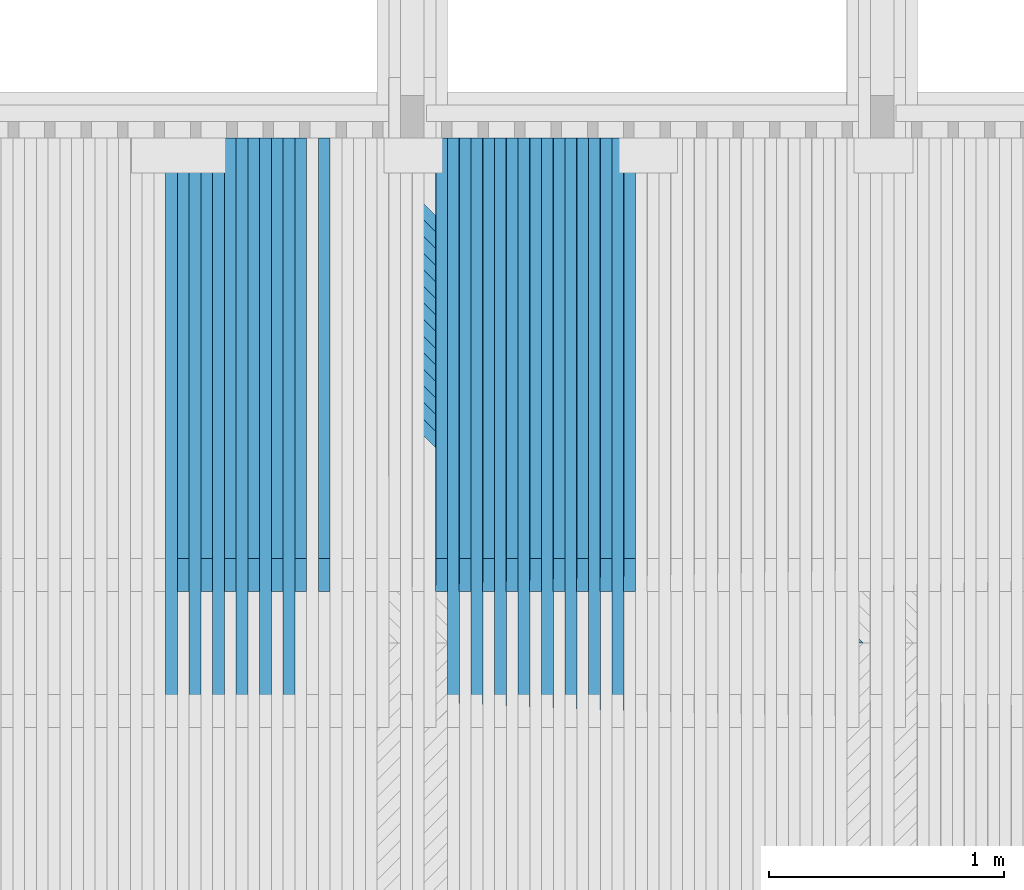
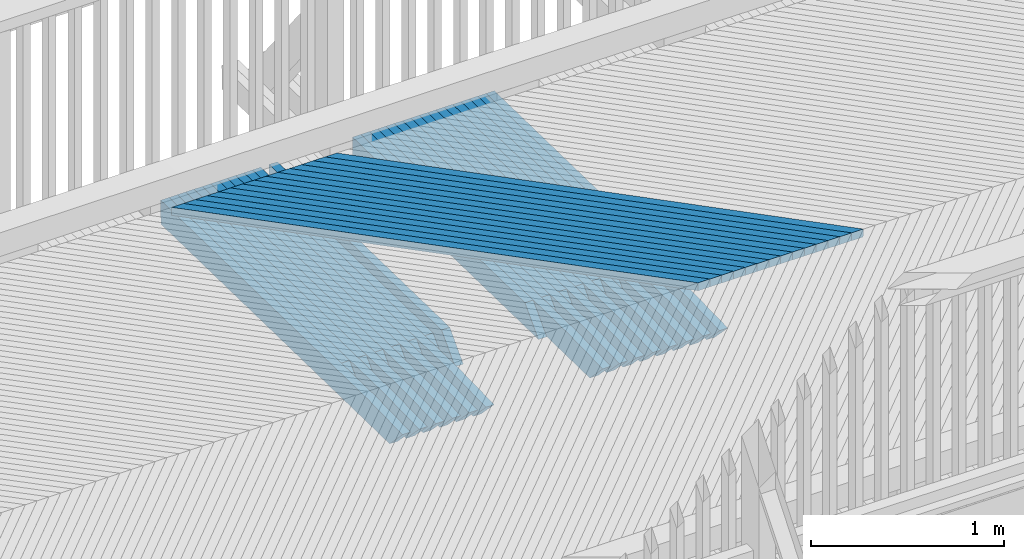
# One storey, part 35 of 53: 44 beams.
"""IFC2X3 building model written with IfcOpenShell, lengths in millimetres."""

from ifc_helpers import new_model, si_unit, frame, origin_with_axes, place, context, subcontext, project, spatial, faceted_brep, material, type_object, element, save


model = new_model("IFC2X3")

# Units and contexts
model_context = context("Model", 3, precision=1e-05, world=origin_with_axes())
body_context = subcontext(model_context, "Body", "Model", "MODEL_VIEW")
ifc_project = project(units=[si_unit("LENGTHUNIT", "METRE", prefix="MILLI"), si_unit("AREAUNIT", "SQUARE_METRE"), si_unit("VOLUMEUNIT", "CUBIC_METRE"), si_unit("MASSUNIT", "GRAM", prefix="KILO"), si_unit("TIMEUNIT", "SECOND"), si_unit("PLANEANGLEUNIT", "RADIAN"), si_unit("SOLIDANGLEUNIT", "STERADIAN"), si_unit("THERMODYNAMICTEMPERATUREUNIT", "DEGREE_CELSIUS"), si_unit("LUMINOUSINTENSITYUNIT", "LUMEN")], contexts=[model_context])

# Site, building, storey
site_placement = place(None, origin_with_axes())
site = spatial("IfcSite", under=ifc_project, at=site_placement, Name="Undefined", CompositionType="ELEMENT")
building_placement = place(site_placement, origin_with_axes())
building = spatial("IfcBuilding", under=site, at=building_placement, Name="Undefined", CompositionType="ELEMENT")
storey_placement = place(building_placement, origin_with_axes())
storey = spatial("IfcBuildingStorey", under=building, at=storey_placement, Name="Undefined", CompositionType="ELEMENT", Elevation=0.0)

# Beams
ifc_material = material(Name="TIMBER/Timber_Undefined")
beam_type_1 = type_object("IfcBeamType", Name="50*50", PredefinedType="NOTDEFINED")
for number, where, z_axis, x_axis, name in (
    (1, (11884.1639920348, 42365.4998996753, 3223.59371167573), (0.707016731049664, 0.706981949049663, -0.0174317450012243), (-0.707181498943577, 0.706948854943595, -0.0108463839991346), "BEAM"),
    (2, (11813.441203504, 42365.4998996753, 3224.04579456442), (0.707018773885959, 0.706981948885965, -0.0173486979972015), (-0.707180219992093, 0.706948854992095, -0.0109294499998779), "BEAM"),
    (3, (11742.718362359, 42365.4998996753, 3224.48957030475), (0.707020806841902, 0.706981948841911, -0.0172656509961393), (-0.707178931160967, 0.706948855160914, -0.0110125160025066), "BEAM"),
    (4, (11671.9954695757, 42365.4998996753, 3224.92503889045), (0.707022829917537, 0.706981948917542, -0.017182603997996), (-0.707177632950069, 0.706948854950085, -0.0110955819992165), "BEAM"),
    (5, (11601.2725261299, 42365.4998996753, 3225.35220031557), (0.707024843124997, 0.706981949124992, -0.0170995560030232), (-0.707176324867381, 0.706948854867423, -0.0111786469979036), "BEAM"),
    (6, (11530.5495329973, 42365.4998996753, 3225.7710545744), (0.707026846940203, 0.706981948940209, -0.0170165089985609), (-0.707175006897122, 0.706948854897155, -0.0112617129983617), "BEAM"),
    (7, (11459.8264911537, 42365.4998996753, 3226.18160166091), (0.7070288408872, 0.706981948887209, -0.0169334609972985), (-0.707173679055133, 0.706948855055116, -0.0113447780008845), "BEAM"),
    (8, (11389.1034015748, 42365.4998996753, 3226.58384156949), (0.70703082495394, 0.706981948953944, -0.0168504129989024), (-0.70717234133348, 0.706948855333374, -0.011427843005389), "BEAM"),
    (9, (11318.3802652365, 42365.4998996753, 3226.97777429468), (0.707032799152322, 0.706981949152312, -0.0167673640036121), (-0.707170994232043, 0.70694885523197, -0.0115109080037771), "BEAM"),
    (10, (11247.6570831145, 42365.4998996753, 3227.363399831), (0.707034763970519, 0.706981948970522, -0.0166843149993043), (-0.707169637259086, 0.706948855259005, -0.0115939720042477), "BEAM"),
    (11, (11176.9338561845, 42365.4998996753, 3227.7407181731), (0.707036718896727, 0.706981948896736, -0.0166012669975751), (-0.707168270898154, 0.706948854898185, -0.0116770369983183), "BEAM"),
    (12, (11106.2105854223, 42365.4998996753, 3228.10972931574), (0.707038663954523, 0.706981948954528, -0.0165182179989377), (-0.70716689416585, 0.706948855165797, -0.011760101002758), "BEAM"),
    (13, (11035.4872718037, 42365.4998996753, 3228.47043325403), (0.707040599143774, 0.706981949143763, -0.016435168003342), (-0.707165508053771, 0.706948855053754, -0.0118431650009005), "BEAM"),
    (14, (10964.7639163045, 42365.4998996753, 3228.82282998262), (0.707042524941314, 0.706981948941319, -0.0163521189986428), (-0.707164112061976, 0.706948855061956, -0.0119262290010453), "BEAM"),
):
    element("IfcBeam", number, at=place(storey_placement, frame(where, z_axis=z_axis, x_axis=x_axis)), inside=storey, type_object=beam_type_1, material=ifc_material, Name=name, ObjectType="50*50", context=body_context, shape_type="Brep", body=[
        faceted_brep([(23.5869248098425, 25.0000000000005, -24.9999999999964), (-26.415415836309, 25.0000000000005, 25.0000000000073), (2802.92643296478, 25.0, 25.0), (2852.92877373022, 25.0, -25.0000000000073), (-25.001170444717, -24.9999999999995, 25.0000000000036), (2804.3406783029, -25.0, 24.9999999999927), (25.0011701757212, -24.9999999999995, -24.9999999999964), (2854.34301907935, -25.0, -25.0)], [[[0, 1, 2, 3]], [[1, 4, 5, 2]], [[4, 6, 7, 5]], [[6, 0, 3, 7]], [[5, 7, 3, 2]], [[6, 4, 1, 0]]]),
    ])
beam_type_2 = type_object("IfcBeamType", Name="150*50", PredefinedType="NOTDEFINED")
beam_1_placement = place(storey_placement, frame((10875.1411031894, 44513.4953923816, 3086.28180497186), z_axis=(0.00469590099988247, 0.0199960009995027, 0.99978903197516), x_axis=(9.39180000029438e-05, -0.999800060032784, 0.0199957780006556)))
element("IfcBeam", 15, at=beam_1_placement, inside=storey, type_object=beam_type_2, material=ifc_material, Name="BEAM", ObjectType="150*50", context=body_context, shape_type="Brep", body=[
    faceted_brep([(1.28420651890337e-08, -24.9999999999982, -74.9999999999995), (1.28420651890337e-08, 25.0000000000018, -75.0), (2375.00494422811, 25.0000000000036, -75.0), (2375.0049444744, -24.9999999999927, -74.9999999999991), (-1.28347892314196e-08, -24.9999999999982, 75.0), (-1.28347892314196e-08, 25.0, 75.0), (2150.42515052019, 25.0000000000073, 75.0), (2510.59248715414, 25.0000000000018, 60.5875433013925), (2510.5924871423, -24.9999999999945, 60.5875430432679), (2150.42514405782, -24.9999999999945, 75.0)], [[[0, 1, 2, 3]], [[0, 4, 5, 1]], [[2, 1, 5, 6, 7]], [[3, 2, 7, 8]], [[4, 0, 3, 8, 9]], [[5, 4, 9, 6]], [[8, 7, 6, 9]]]),
])
beam_2_placement = place(storey_placement, frame((10925.1605446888, 44513.4953923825, 3086.03855962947), z_axis=(0.00486202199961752, 0.0199960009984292, 0.999788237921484), x_axis=(9.72400000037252e-05, -0.999800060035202, 0.019995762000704)))
element("IfcBeam", 16, at=beam_2_placement, inside=storey, type_object=beam_type_2, material=ifc_material, Name="BEAM", ObjectType="150*50", context=body_context, shape_type="Brep", body=[
    faceted_brep([(1.28420651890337e-08, -24.9999999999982, -74.9999999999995), (-1.28347892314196e-08, -24.9999999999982, 75.0), (-1.28347892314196e-08, 25.0, 75.0), (1.28420651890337e-08, 25.0000000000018, -75.0), (1789.96936408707, 24.9999999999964, 75.0000000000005), (1928.42646328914, 24.9999999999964, -74.9999999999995), (1928.42646353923, -25.0000000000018, -75.0), (1789.96936433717, -25.0000000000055, 74.9999999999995)], [[[0, 1, 2, 3]], [[3, 2, 4, 5]], [[0, 3, 5, 6]], [[1, 0, 6, 7]], [[2, 1, 7, 4]], [[5, 4, 7, 6]]]),
])
beam_3_placement = place(storey_placement, frame((10775.1221713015, 44513.4953923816, 3086.75121569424), z_axis=(0.00452978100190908, 0.01999600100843, 0.999789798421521), x_axis=(9.05950000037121e-05, -0.999800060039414, 0.0199957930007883)))
element("IfcBeam", 17, at=beam_3_placement, inside=storey, type_object=beam_type_2, material=ifc_material, Name="BEAM", ObjectType="150*50", context=body_context, shape_type="Brep", body=[
    faceted_brep([(1.28420651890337e-08, -24.9999999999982, -74.9999999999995), (1.28420651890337e-08, 25.0000000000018, -75.0), (2375.00494422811, 25.0000000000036, -75.0), (2375.0049444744, -24.9999999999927, -74.9999999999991), (-1.28347892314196e-08, -24.9999999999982, 75.0), (-1.28347892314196e-08, 25.0, 75.0), (2150.42515052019, 25.0000000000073, 75.0), (2510.59248715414, 25.0000000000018, 60.5875433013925), (2510.5924871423, -24.9999999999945, 60.5875430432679), (2150.42514405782, -24.9999999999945, 75.0)], [[[0, 1, 2, 3]], [[0, 4, 5, 1]], [[2, 1, 5, 6, 7]], [[3, 2, 7, 8]], [[4, 0, 3, 8, 9]], [[5, 4, 9, 6]], [[8, 7, 6, 9]]]),
])
beam_4_placement = place(storey_placement, frame((10825.141652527, 44513.4953923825, 3086.51628135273), z_axis=(0.00469590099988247, 0.0199960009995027, 0.99978903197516), x_axis=(9.39180000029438e-05, -0.999800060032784, 0.0199957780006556)))
element("IfcBeam", 18, at=beam_4_placement, inside=storey, type_object=beam_type_2, material=ifc_material, Name="BEAM", ObjectType="150*50", context=body_context, shape_type="Brep", body=[
    faceted_brep([(1.28420651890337e-08, -24.9999999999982, -74.9999999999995), (-1.28347892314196e-08, -24.9999999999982, 75.0), (-1.28347892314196e-08, 25.0, 75.0), (1.28420651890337e-08, 25.0000000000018, -75.0), (1789.96936408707, 24.9999999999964, 75.0000000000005), (1928.42646328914, 24.9999999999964, -74.9999999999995), (1928.42646353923, -25.0000000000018, -75.0), (1789.96936433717, -25.0000000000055, 74.9999999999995)], [[[0, 1, 2, 3]], [[3, 2, 4, 5]], [[0, 3, 5, 6]], [[1, 0, 6, 7]], [[2, 1, 7, 4]], [[5, 4, 7, 6]]]),
])
beam_5_placement = place(storey_placement, frame((10675.1031627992, 44513.4953923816, 3087.20400773), z_axis=(0.00436366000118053, 0.0199960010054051, 0.999790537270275), x_axis=(8.72730000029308e-05, -0.999800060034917, 0.0199958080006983)))
element("IfcBeam", 19, at=beam_5_placement, inside=storey, type_object=beam_type_2, material=ifc_material, Name="BEAM", ObjectType="150*50", context=body_context, shape_type="Brep", body=[
    faceted_brep([(1.28420651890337e-08, -24.9999999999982, -74.9999999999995), (1.28420651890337e-08, 25.0000000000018, -75.0), (2375.00494422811, 25.0000000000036, -75.0), (2375.0049444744, -24.9999999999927, -74.9999999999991), (-1.28347892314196e-08, -24.9999999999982, 75.0), (-1.28347892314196e-08, 25.0, 75.0), (2150.42515052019, 25.0000000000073, 75.0), (2510.59248715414, 25.0000000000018, 60.5875433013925), (2510.5924871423, -24.9999999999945, 60.5875430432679), (2150.42514405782, -24.9999999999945, 75.0)], [[[0, 1, 2, 3]], [[0, 4, 5, 1]], [[2, 1, 5, 6, 7]], [[3, 2, 7, 8]], [[4, 0, 3, 8, 9]], [[5, 4, 9, 6]], [[8, 7, 6, 9]]]),
])
beam_6_placement = place(storey_placement, frame((10725.1226823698, 44513.4953923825, 3086.9773843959), z_axis=(0.00452978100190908, 0.01999600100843, 0.999789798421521), x_axis=(9.05950000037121e-05, -0.999800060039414, 0.0199957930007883)))
element("IfcBeam", 20, at=beam_6_placement, inside=storey, type_object=beam_type_2, material=ifc_material, Name="BEAM", ObjectType="150*50", context=body_context, shape_type="Brep", body=[
    faceted_brep([(1.28420651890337e-08, -24.9999999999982, -74.9999999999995), (-1.28347892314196e-08, -24.9999999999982, 75.0), (-1.28347892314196e-08, 25.0, 75.0), (1.28420651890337e-08, 25.0000000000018, -75.0), (1789.96936408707, 24.9999999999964, 75.0000000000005), (1928.42646328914, 24.9999999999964, -74.9999999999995), (1928.42646353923, -25.0000000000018, -75.0), (1789.96936433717, -25.0000000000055, 74.9999999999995)], [[[0, 1, 2, 3]], [[3, 2, 4, 5]], [[0, 3, 5, 6]], [[1, 0, 6, 7]], [[2, 1, 7, 4]], [[5, 4, 7, 6]]]),
])
beam_7_placement = place(storey_placement, frame((10575.0840804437, 44513.4953923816, 3087.64018106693), z_axis=(0.00419753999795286, 0.0199960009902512, 0.99979124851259), x_axis=(8.39510000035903e-05, -0.999800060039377, 0.0199958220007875)))
element("IfcBeam", 21, at=beam_7_placement, inside=storey, type_object=beam_type_2, material=ifc_material, Name="BEAM", ObjectType="150*50", context=body_context, shape_type="Brep", body=[
    faceted_brep([(1.28420651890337e-08, -24.9999999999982, -74.9999999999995), (1.28420651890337e-08, 25.0000000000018, -75.0), (2375.00494422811, 25.0000000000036, -75.0), (2375.0049444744, -24.9999999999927, -74.9999999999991), (-1.28347892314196e-08, -24.9999999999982, 75.0), (-1.28347892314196e-08, 25.0, 75.0), (2150.42515052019, 25.0000000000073, 75.0), (2510.59248715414, 25.0000000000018, 60.5875433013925), (2510.5924871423, -24.9999999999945, 60.5875430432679), (2150.42514405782, -24.9999999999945, 75.0)], [[[0, 1, 2, 3]], [[0, 4, 5, 1]], [[2, 1, 5, 6, 7]], [[3, 2, 7, 8]], [[4, 0, 3, 8, 9]], [[5, 4, 9, 6]], [[8, 7, 6, 9]]]),
])
beam_8_placement = place(storey_placement, frame((10625.1036369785, 44513.4953923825, 3087.4218687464), z_axis=(0.00436366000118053, 0.0199960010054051, 0.999790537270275), x_axis=(8.72730000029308e-05, -0.999800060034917, 0.0199958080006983)))
element("IfcBeam", 22, at=beam_8_placement, inside=storey, type_object=beam_type_2, material=ifc_material, Name="BEAM", ObjectType="150*50", context=body_context, shape_type="Brep", body=[
    faceted_brep([(1.28420651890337e-08, -24.9999999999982, -74.9999999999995), (-1.28347892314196e-08, -24.9999999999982, 75.0), (-1.28347892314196e-08, 25.0, 75.0), (1.28420651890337e-08, 25.0000000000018, -75.0), (1789.96936408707, 24.9999999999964, 75.0000000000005), (1928.42646328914, 24.9999999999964, -74.9999999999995), (1928.42646353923, -25.0000000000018, -75.0), (1789.96936433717, -25.0000000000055, 74.9999999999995)], [[[0, 1, 2, 3]], [[3, 2, 4, 5]], [[0, 3, 5, 6]], [[1, 0, 6, 7]], [[2, 1, 7, 4]], [[5, 4, 7, 6]]]),
])
beam_9_placement = place(storey_placement, frame((10475.0649269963, 44513.4953923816, 3088.05973569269), z_axis=(0.00403141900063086, 0.0199960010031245, 0.999791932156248), x_axis=(8.06280000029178e-05, -0.999800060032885, 0.0199958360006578)))
element("IfcBeam", 23, at=beam_9_placement, inside=storey, type_object=beam_type_2, material=ifc_material, Name="BEAM", ObjectType="150*50", context=body_context, shape_type="Brep", body=[
    faceted_brep([(1.28420651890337e-08, -24.9999999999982, -74.9999999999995), (1.28420651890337e-08, 25.0000000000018, -75.0), (2375.00494422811, 25.0000000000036, -75.0), (2375.0049444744, -24.9999999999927, -74.9999999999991), (-1.28347892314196e-08, -24.9999999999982, 75.0), (-1.28347892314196e-08, 25.0, 75.0), (2150.42515052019, 25.0000000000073, 75.0), (2510.59248715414, 25.0000000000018, 60.5875433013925), (2510.5924871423, -24.9999999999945, 60.5875430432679), (2150.42514405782, -24.9999999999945, 75.0)], [[[0, 1, 2, 3]], [[0, 4, 5, 1]], [[2, 1, 5, 6, 7]], [[3, 2, 7, 8]], [[4, 0, 3, 8, 9]], [[5, 4, 9, 6]], [[8, 7, 6, 9]]]),
])
beam_10_placement = place(storey_placement, frame((10525.0845191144, 44513.4953923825, 3087.84973439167), z_axis=(0.00419753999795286, 0.0199960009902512, 0.99979124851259), x_axis=(8.39510000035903e-05, -0.999800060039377, 0.0199958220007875)))
element("IfcBeam", 24, at=beam_10_placement, inside=storey, type_object=beam_type_2, material=ifc_material, Name="BEAM", ObjectType="150*50", context=body_context, shape_type="Brep", body=[
    faceted_brep([(1.28420651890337e-08, -24.9999999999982, -74.9999999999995), (-1.28347892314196e-08, -24.9999999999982, 75.0), (-1.28347892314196e-08, 25.0, 75.0), (1.28420651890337e-08, 25.0000000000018, -75.0), (1789.96936408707, 24.9999999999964, 75.0000000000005), (1928.42646328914, 24.9999999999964, -74.9999999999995), (1928.42646353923, -25.0000000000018, -75.0), (1789.96936433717, -25.0000000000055, 74.9999999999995)], [[[0, 1, 2, 3]], [[3, 2, 4, 5]], [[0, 3, 5, 6]], [[1, 0, 6, 7]], [[2, 1, 7, 4]], [[5, 4, 7, 6]]]),
])
beam_11_placement = place(storey_placement, frame((10375.0457052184, 44513.4953923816, 3088.46267159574), z_axis=(0.00386529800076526, 0.0199960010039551, 0.99979258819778), x_axis=(7.73060000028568e-05, -0.999800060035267, 0.0199958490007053)))
element("IfcBeam", 25, at=beam_11_placement, inside=storey, type_object=beam_type_2, material=ifc_material, Name="BEAM", ObjectType="150*50", context=body_context, shape_type="Brep", body=[
    faceted_brep([(1.28420651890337e-08, -24.9999999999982, -74.9999999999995), (1.28420651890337e-08, 25.0000000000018, -75.0), (2375.00494422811, 25.0000000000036, -75.0), (2375.0049444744, -24.9999999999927, -74.9999999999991), (-1.28347892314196e-08, -24.9999999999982, 75.0), (-1.28347892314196e-08, 25.0, 75.0), (2150.42515052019, 25.0000000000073, 75.0), (2510.59248715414, 25.0000000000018, 60.5875433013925), (2510.5924871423, -24.9999999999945, 60.5875430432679), (2150.42514405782, -24.9999999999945, 75.0)], [[[0, 1, 2, 3]], [[0, 4, 5, 1]], [[2, 1, 5, 6, 7]], [[3, 2, 7, 8]], [[4, 0, 3, 8, 9]], [[5, 4, 9, 6]], [[8, 7, 6, 9]]]),
])
beam_12_placement = place(storey_placement, frame((10425.0653315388, 44513.4953923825, 3088.26098132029), z_axis=(0.00403141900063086, 0.0199960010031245, 0.999791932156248), x_axis=(8.06280000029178e-05, -0.999800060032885, 0.0199958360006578)))
element("IfcBeam", 26, at=beam_12_placement, inside=storey, type_object=beam_type_2, material=ifc_material, Name="BEAM", ObjectType="150*50", context=body_context, shape_type="Brep", body=[
    faceted_brep([(1.28420651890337e-08, -24.9999999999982, -74.9999999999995), (-1.28347892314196e-08, -24.9999999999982, 75.0), (-1.28347892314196e-08, 25.0, 75.0), (1.28420651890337e-08, 25.0000000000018, -75.0), (1789.96936408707, 24.9999999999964, 75.0000000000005), (1928.42646328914, 24.9999999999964, -74.9999999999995), (1928.42646353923, -25.0000000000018, -75.0), (1789.96936433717, -25.0000000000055, 74.9999999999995)], [[[0, 1, 2, 3]], [[3, 2, 4, 5]], [[0, 3, 5, 6]], [[1, 0, 6, 7]], [[2, 1, 7, 4]], [[5, 4, 7, 6]]]),
])
beam_13_placement = place(storey_placement, frame((10275.0264178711, 44513.4953923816, 3088.84898876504), z_axis=(0.00369917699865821, 0.0199960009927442, 0.999793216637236), x_axis=(7.39830000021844e-05, -0.999800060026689, 0.0199958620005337)))
element("IfcBeam", 27, at=beam_13_placement, inside=storey, type_object=beam_type_2, material=ifc_material, Name="BEAM", ObjectType="150*50", context=body_context, shape_type="Brep", body=[
    faceted_brep([(1.28420651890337e-08, -24.9999999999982, -74.9999999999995), (1.28420651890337e-08, 25.0000000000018, -75.0), (2375.00494422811, 25.0000000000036, -75.0), (2375.0049444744, -24.9999999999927, -74.9999999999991), (-1.28347892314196e-08, -24.9999999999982, 75.0), (-1.28347892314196e-08, 25.0, 75.0), (2150.42515052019, 25.0000000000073, 75.0), (2510.59248715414, 25.0000000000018, 60.5875433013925), (2510.5924871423, -24.9999999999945, 60.5875430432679), (2150.42514405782, -24.9999999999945, 75.0)], [[[0, 1, 2, 3]], [[0, 4, 5, 1]], [[2, 1, 5, 6, 7]], [[3, 2, 7, 8]], [[4, 0, 3, 8, 9]], [[5, 4, 9, 6]], [[8, 7, 6, 9]]]),
])
beam_14_placement = place(storey_placement, frame((10325.046077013, 44513.4953923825, 3088.65560952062), z_axis=(0.00386529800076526, 0.0199960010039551, 0.99979258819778), x_axis=(7.73060000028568e-05, -0.999800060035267, 0.0199958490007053)))
element("IfcBeam", 28, at=beam_14_placement, inside=storey, type_object=beam_type_2, material=ifc_material, Name="BEAM", ObjectType="150*50", context=body_context, shape_type="Brep", body=[
    faceted_brep([(1.28420651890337e-08, -24.9999999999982, -74.9999999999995), (-1.28347892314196e-08, -24.9999999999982, 75.0), (-1.28347892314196e-08, 25.0, 75.0), (1.28420651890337e-08, 25.0000000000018, -75.0), (1789.96936408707, 24.9999999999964, 75.0000000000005), (1928.42646328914, 24.9999999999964, -74.9999999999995), (1928.42646353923, -25.0000000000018, -75.0), (1789.96936433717, -25.0000000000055, 74.9999999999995)], [[[0, 1, 2, 3]], [[3, 2, 4, 5]], [[0, 3, 5, 6]], [[1, 0, 6, 7]], [[2, 1, 7, 4]], [[5, 4, 7, 6]]]),
])
beam_15_placement = place(storey_placement, frame((10175.0070677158, 44513.4953923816, 3089.21868718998), z_axis=(0.00353218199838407, 0.0199960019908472, 0.999793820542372), x_axis=(7.06610000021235e-05, -0.999800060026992, 0.0199958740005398)))
element("IfcBeam", 29, at=beam_15_placement, inside=storey, type_object=beam_type_2, material=ifc_material, Name="BEAM", ObjectType="150*50", context=body_context, shape_type="Brep", body=[
    faceted_brep([(1.28420651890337e-08, -24.9999999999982, -74.9999999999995), (1.28420651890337e-08, 25.0000000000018, -75.0), (2375.00494422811, 25.0000000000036, -75.0), (2375.0049444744, -24.9999999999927, -74.9999999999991), (-1.28347892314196e-08, -24.9999999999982, 75.0), (-1.28347892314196e-08, 25.0, 75.0), (2150.42515052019, 25.0000000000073, 75.0), (2510.59248715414, 25.0000000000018, 60.5875433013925), (2510.5924871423, -24.9999999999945, 60.5875430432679), (2150.42514405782, -24.9999999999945, 75.0)], [[[0, 1, 2, 3]], [[0, 4, 5, 1]], [[2, 1, 5, 6, 7]], [[3, 2, 7, 8]], [[4, 0, 3, 8, 9]], [[5, 4, 9, 6]], [[8, 7, 6, 9]]]),
])
for number, where, z_axis, x_axis, name in (
    (30, (10225.0267582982, 44513.4953923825, 3089.03361898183), (0.00369917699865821, 0.0199960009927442, 0.999793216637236), (7.39830000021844e-05, -0.999800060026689, 0.0199958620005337), "BEAM"),
    (31, (10125.0073781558, 44513.4953923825, 3089.39500969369), (0.00353218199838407, 0.0199960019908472, 0.999793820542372), (7.06610000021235e-05, -0.999800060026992, 0.0199958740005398), "BEAM"),
    (32, (9625.5096525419, 44513.4953923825, 3090.9530804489), (0.00270244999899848, 0.019996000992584, 0.999796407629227), (5.40480000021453e-05, -0.999800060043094, 0.0199959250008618), "BEAM"),
):
    element("IfcBeam", number, at=place(storey_placement, frame(where, z_axis=z_axis, x_axis=x_axis)), inside=storey, type_object=beam_type_2, material=ifc_material, Name=name, ObjectType="150*50", context=body_context, shape_type="Brep", body=[
        faceted_brep([(1.28420651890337e-08, -24.9999999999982, -74.9999999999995), (-1.28347892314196e-08, -24.9999999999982, 75.0), (-1.28347892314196e-08, 25.0, 75.0), (1.28420651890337e-08, 25.0000000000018, -75.0), (1789.96936408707, 24.9999999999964, 75.0000000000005), (1928.42646328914, 24.9999999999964, -74.9999999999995), (1928.42646353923, -25.0000000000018, -75.0), (1789.96936433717, -25.0000000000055, 74.9999999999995)], [[[0, 1, 2, 3]], [[3, 2, 4, 5]], [[0, 3, 5, 6]], [[1, 0, 6, 7]], [[2, 1, 7, 4]], [[5, 4, 7, 6]]]),
    ])
beam_16_placement = place(storey_placement, frame((9475.470089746, 44513.4953923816, 3091.34174898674), z_axis=(0.00237020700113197, 0.0199960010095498, 0.999797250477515), x_axis=(4.74040000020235e-05, -0.999800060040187, 0.0199959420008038)))
element("IfcBeam", 33, at=beam_16_placement, inside=storey, type_object=beam_type_2, material=ifc_material, Name="BEAM", ObjectType="150*50", context=body_context, shape_type="Brep", body=[
    faceted_brep([(1.28420651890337e-08, -24.9999999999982, -74.9999999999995), (1.28420651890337e-08, 25.0000000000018, -75.0), (2375.00494422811, 25.0000000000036, -75.0), (2375.0049444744, -24.9999999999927, -74.9999999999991), (-1.28347892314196e-08, -24.9999999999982, 75.0), (-1.28347892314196e-08, 25.0, 75.0), (2150.42515052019, 25.0000000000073, 75.0), (2510.59248715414, 25.0000000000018, 60.5875433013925), (2510.5924871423, -24.9999999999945, 60.5875430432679), (2150.42514405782, -24.9999999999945, 75.0)], [[[0, 1, 2, 3]], [[0, 4, 5, 1]], [[2, 1, 5, 6, 7]], [[3, 2, 7, 8]], [[4, 0, 3, 8, 9]], [[5, 4, 9, 6]], [[8, 7, 6, 9]]]),
])
beam_17_placement = place(storey_placement, frame((9525.48996174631, 44513.4953923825, 3091.21485816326), z_axis=(0.0025363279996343, 0.0199960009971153, 0.999796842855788), x_axis=(5.07260000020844e-05, -0.999800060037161, 0.0199959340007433)))
element("IfcBeam", 34, at=beam_17_placement, inside=storey, type_object=beam_type_2, material=ifc_material, Name="BEAM", ObjectType="150*50", context=body_context, shape_type="Brep", body=[
    faceted_brep([(1.28420651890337e-08, -24.9999999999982, -74.9999999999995), (-1.28347892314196e-08, -24.9999999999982, 75.0), (-1.28347892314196e-08, 25.0, 75.0), (1.28420651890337e-08, 25.0000000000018, -75.0), (1789.96936408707, 24.9999999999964, 75.0000000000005), (1928.42646328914, 24.9999999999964, -74.9999999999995), (1928.42646353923, -25.0000000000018, -75.0), (1789.96936433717, -25.0000000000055, 74.9999999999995)], [[[0, 1, 2, 3]], [[3, 2, 4, 5]], [[0, 3, 5, 6]], [[1, 0, 6, 7]], [[2, 1, 7, 4]], [[5, 4, 7, 6]]]),
])
beam_18_placement = place(storey_placement, frame((9375.45033644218, 44513.4953923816, 3091.57859682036), z_axis=(0.00220408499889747, 0.0199960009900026, 0.999797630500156), x_axis=(4.4081000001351e-05, -0.999800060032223, 0.0199959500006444)))
element("IfcBeam", 35, at=beam_18_placement, inside=storey, type_object=beam_type_2, material=ifc_material, Name="BEAM", ObjectType="150*50", context=body_context, shape_type="Brep", body=[
    faceted_brep([(1.28420651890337e-08, -24.9999999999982, -74.9999999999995), (1.28420651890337e-08, 25.0000000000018, -75.0), (2375.00494422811, 25.0000000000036, -75.0), (2375.0049444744, -24.9999999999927, -74.9999999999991), (-1.28347892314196e-08, -24.9999999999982, 75.0), (-1.28347892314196e-08, 25.0, 75.0), (2150.42515052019, 25.0000000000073, 75.0), (2510.59248715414, 25.0000000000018, 60.5875433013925), (2510.5924871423, -24.9999999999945, 60.5875430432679), (2150.42514405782, -24.9999999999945, 75.0)], [[[0, 1, 2, 3]], [[0, 4, 5, 1]], [[2, 1, 5, 6, 7]], [[3, 2, 7, 8]], [[4, 0, 3, 8, 9]], [[5, 4, 9, 6]], [[8, 7, 6, 9]]]),
])
beam_19_placement = place(storey_placement, frame((9425.47022883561, 44513.4953923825, 3091.46001706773), z_axis=(0.00237020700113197, 0.0199960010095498, 0.999797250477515), x_axis=(4.74040000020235e-05, -0.999800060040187, 0.0199959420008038)))
element("IfcBeam", 36, at=beam_19_placement, inside=storey, type_object=beam_type_2, material=ifc_material, Name="BEAM", ObjectType="150*50", context=body_context, shape_type="Brep", body=[
    faceted_brep([(1.28420651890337e-08, -24.9999999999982, -74.9999999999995), (-1.28347892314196e-08, -24.9999999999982, 75.0), (-1.28347892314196e-08, 25.0, 75.0), (1.28420651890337e-08, 25.0000000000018, -75.0), (1789.96936408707, 24.9999999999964, 75.0000000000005), (1928.42646328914, 24.9999999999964, -74.9999999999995), (1928.42646353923, -25.0000000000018, -75.0), (1789.96936433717, -25.0000000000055, 74.9999999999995)], [[[0, 1, 2, 3]], [[3, 2, 4, 5]], [[0, 3, 5, 6]], [[1, 0, 6, 7]], [[2, 1, 7, 4]], [[5, 4, 7, 6]]]),
])
beam_20_placement = place(storey_placement, frame((9275.43054516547, 44513.4953923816, 3091.79882583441), z_axis=(0.00203796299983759, 0.0199960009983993, 0.999797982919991), x_axis=(4.07590000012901e-05, -0.999800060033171, 0.0199959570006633)))
element("IfcBeam", 37, at=beam_20_placement, inside=storey, type_object=beam_type_2, material=ifc_material, Name="BEAM", ObjectType="150*50", context=body_context, shape_type="Brep", body=[
    faceted_brep([(1.28420651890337e-08, -24.9999999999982, -74.9999999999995), (1.28420651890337e-08, 25.0000000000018, -75.0), (2375.00494422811, 25.0000000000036, -75.0), (2375.0049444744, -24.9999999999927, -74.9999999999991), (-1.28347892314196e-08, -24.9999999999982, 75.0), (-1.28347892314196e-08, 25.0, 75.0), (2150.42515052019, 25.0000000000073, 75.0), (2510.59248715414, 25.0000000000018, 60.5875433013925), (2510.5924871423, -24.9999999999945, 60.5875430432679), (2150.42514405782, -24.9999999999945, 75.0)], [[[0, 1, 2, 3]], [[0, 4, 5, 1]], [[2, 1, 5, 6, 7]], [[3, 2, 7, 8]], [[4, 0, 3, 8, 9]], [[5, 4, 9, 6]], [[8, 7, 6, 9]]]),
])
beam_21_placement = place(storey_placement, frame((9325.4504565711, 44513.4953923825, 3091.68855715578), z_axis=(0.00220408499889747, 0.0199960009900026, 0.999797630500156), x_axis=(4.4081000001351e-05, -0.999800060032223, 0.0199959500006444)))
element("IfcBeam", 38, at=beam_21_placement, inside=storey, type_object=beam_type_2, material=ifc_material, Name="BEAM", ObjectType="150*50", context=body_context, shape_type="Brep", body=[
    faceted_brep([(1.28420651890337e-08, -24.9999999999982, -74.9999999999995), (-1.28347892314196e-08, -24.9999999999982, 75.0), (-1.28347892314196e-08, 25.0, 75.0), (1.28420651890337e-08, 25.0000000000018, -75.0), (1789.96936408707, 24.9999999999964, 75.0000000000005), (1928.42646328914, 24.9999999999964, -74.9999999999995), (1928.42646353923, -25.0000000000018, -75.0), (1789.96936433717, -25.0000000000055, 74.9999999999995)], [[[0, 1, 2, 3]], [[3, 2, 4, 5]], [[0, 3, 5, 6]], [[1, 0, 6, 7]], [[2, 1, 7, 4]], [[5, 4, 7, 6]]]),
])
beam_22_placement = place(storey_placement, frame((9175.41071867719, 44513.4953923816, 3092.00243602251), z_axis=(0.00187184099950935, 0.0199960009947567, 0.999798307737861), x_axis=(3.7436000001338e-05, -0.999800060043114, 0.0199959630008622)))
element("IfcBeam", 39, at=beam_22_placement, inside=storey, type_object=beam_type_2, material=ifc_material, Name="BEAM", ObjectType="150*50", context=body_context, shape_type="Brep", body=[
    faceted_brep([(1.28420651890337e-08, -24.9999999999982, -74.9999999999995), (1.28420651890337e-08, 25.0000000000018, -75.0), (2375.00494422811, 25.0000000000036, -75.0), (2375.0049444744, -24.9999999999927, -74.9999999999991), (-1.28347892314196e-08, -24.9999999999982, 75.0), (-1.28347892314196e-08, 25.0, 75.0), (2150.42515052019, 25.0000000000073, 75.0), (2510.59248715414, 25.0000000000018, 60.5875433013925), (2510.5924871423, -24.9999999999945, 60.5875430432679), (2150.42514405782, -24.9999999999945, 75.0)], [[[0, 1, 2, 3]], [[0, 4, 5, 1]], [[2, 1, 5, 6, 7]], [[3, 2, 7, 8]], [[4, 0, 3, 8, 9]], [[5, 4, 9, 6]], [[8, 7, 6, 9]]]),
])
beam_23_placement = place(storey_placement, frame((9225.43064771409, 44513.4953923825, 3091.9004784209), z_axis=(0.00203796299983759, 0.0199960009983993, 0.999797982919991), x_axis=(4.07590000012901e-05, -0.999800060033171, 0.0199959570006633)))
element("IfcBeam", 40, at=beam_23_placement, inside=storey, type_object=beam_type_2, material=ifc_material, Name="BEAM", ObjectType="150*50", context=body_context, shape_type="Brep", body=[
    faceted_brep([(1.28420651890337e-08, -24.9999999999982, -74.9999999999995), (-1.28347892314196e-08, -24.9999999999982, 75.0), (-1.28347892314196e-08, 25.0, 75.0), (1.28420651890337e-08, 25.0000000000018, -75.0), (1789.96936408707, 24.9999999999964, 75.0000000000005), (1928.42646328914, 24.9999999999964, -74.9999999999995), (1928.42646353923, -25.0000000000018, -75.0), (1789.96936433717, -25.0000000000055, 74.9999999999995)], [[[0, 1, 2, 3]], [[3, 2, 4, 5]], [[0, 3, 5, 6]], [[1, 0, 6, 7]], [[2, 1, 7, 4]], [[5, 4, 7, 6]]]),
])
beam_24_placement = place(storey_placement, frame((9075.39085973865, 44513.4953923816, 3092.18942737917), z_axis=(0.00170571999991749, 0.0199960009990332, 0.999798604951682), x_axis=(3.41140000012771e-05, -0.999800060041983, 0.0199959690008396)))
element("IfcBeam", 41, at=beam_24_placement, inside=storey, type_object=beam_type_2, material=ifc_material, Name="BEAM", ObjectType="150*50", context=body_context, shape_type="Brep", body=[
    faceted_brep([(1.28420651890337e-08, -24.9999999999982, -74.9999999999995), (1.28420651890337e-08, 25.0000000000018, -75.0), (2375.00494422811, 25.0000000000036, -75.0), (2375.0049444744, -24.9999999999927, -74.9999999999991), (-1.28347892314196e-08, -24.9999999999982, 75.0), (-1.28347892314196e-08, 25.0, 75.0), (2150.42515052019, 25.0000000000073, 75.0), (2510.59248715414, 25.0000000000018, 60.5875433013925), (2510.5924871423, -24.9999999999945, 60.5875430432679), (2150.42514405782, -24.9999999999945, 75.0)], [[[0, 1, 2, 3]], [[0, 4, 5, 1]], [[2, 1, 5, 6, 7]], [[3, 2, 7, 8]], [[4, 0, 3, 8, 9]], [[5, 4, 9, 6]], [[8, 7, 6, 9]]]),
])
beam_25_placement = place(storey_placement, frame((9125.41080502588, 44513.4953923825, 3092.09578085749), z_axis=(0.00187184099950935, 0.0199960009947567, 0.999798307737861), x_axis=(3.7436000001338e-05, -0.999800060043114, 0.0199959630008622)))
element("IfcBeam", 42, at=beam_25_placement, inside=storey, type_object=beam_type_2, material=ifc_material, Name="BEAM", ObjectType="150*50", context=body_context, shape_type="Brep", body=[
    faceted_brep([(1.28420651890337e-08, -24.9999999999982, -74.9999999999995), (-1.28347892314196e-08, -24.9999999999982, 75.0), (-1.28347892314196e-08, 25.0, 75.0), (1.28420651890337e-08, 25.0000000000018, -75.0), (1789.96936408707, 24.9999999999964, 75.0000000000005), (1928.42646328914, 24.9999999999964, -74.9999999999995), (1928.42646353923, -25.0000000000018, -75.0), (1789.96936433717, -25.0000000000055, 74.9999999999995)], [[[0, 1, 2, 3]], [[3, 2, 4, 5]], [[0, 3, 5, 6]], [[1, 0, 6, 7]], [[2, 1, 7, 4]], [[5, 4, 7, 6]]]),
])
beam_26_placement = place(storey_placement, frame((8975.37097111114, 44513.4953923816, 3092.35979989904), z_axis=(0.00153959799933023, 0.0199960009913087, 0.999798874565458), x_axis=(3.0791000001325e-05, -0.999800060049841, 0.0199959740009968)))
element("IfcBeam", 43, at=beam_26_placement, inside=storey, type_object=beam_type_2, material=ifc_material, Name="BEAM", ObjectType="150*50", context=body_context, shape_type="Brep", body=[
    faceted_brep([(1.28420651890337e-08, -24.9999999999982, -74.9999999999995), (1.28420651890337e-08, 25.0000000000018, -75.0), (2375.00494422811, 25.0000000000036, -75.0), (2375.0049444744, -24.9999999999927, -74.9999999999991), (-1.28347892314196e-08, -24.9999999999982, 75.0), (-1.28347892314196e-08, 25.0, 75.0), (2150.42515052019, 25.0000000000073, 75.0), (2510.59248715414, 25.0000000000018, 60.5875433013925), (2510.5924871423, -24.9999999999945, 60.5875430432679), (2150.42514405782, -24.9999999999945, 75.0)], [[[0, 1, 2, 3]], [[0, 4, 5, 1]], [[2, 1, 5, 6, 7]], [[3, 2, 7, 8]], [[4, 0, 3, 8, 9]], [[5, 4, 9, 6]], [[8, 7, 6, 9]]]),
])
beam_27_placement = place(storey_placement, frame((9025.39093126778, 44513.4953923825, 3092.27446445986), z_axis=(0.00170571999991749, 0.0199960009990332, 0.999798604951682), x_axis=(3.41140000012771e-05, -0.999800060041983, 0.0199959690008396)))
element("IfcBeam", 44, at=beam_27_placement, inside=storey, type_object=beam_type_2, material=ifc_material, Name="BEAM", ObjectType="150*50", context=body_context, shape_type="Brep", body=[
    faceted_brep([(1.28420651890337e-08, -24.9999999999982, -74.9999999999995), (-1.28347892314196e-08, -24.9999999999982, 75.0), (-1.28347892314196e-08, 25.0, 75.0), (1.28420651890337e-08, 25.0000000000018, -75.0), (1789.96936408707, 24.9999999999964, 75.0000000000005), (1928.42646328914, 24.9999999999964, -74.9999999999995), (1928.42646353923, -25.0000000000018, -75.0), (1789.96936433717, -25.0000000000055, 74.9999999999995)], [[[0, 1, 2, 3]], [[3, 2, 4, 5]], [[0, 3, 5, 6]], [[1, 0, 6, 7]], [[2, 1, 7, 4]], [[5, 4, 7, 6]]]),
])

save(model, "model.ifc")
